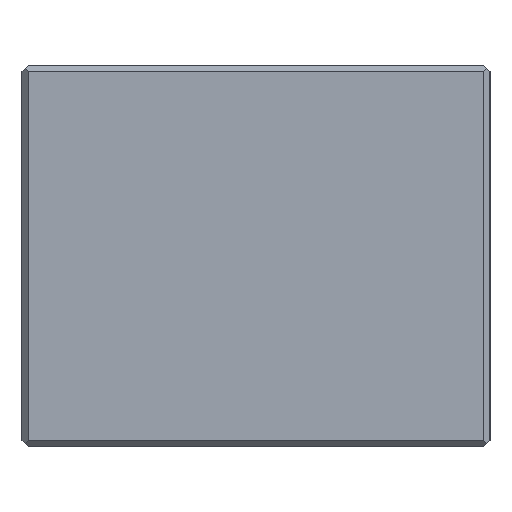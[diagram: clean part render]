
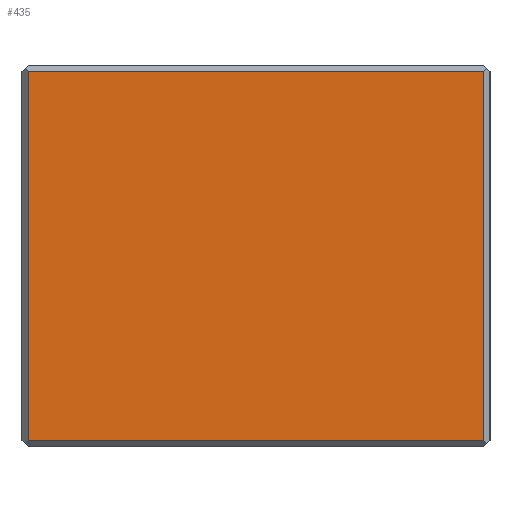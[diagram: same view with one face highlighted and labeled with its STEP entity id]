
A CAD part, left-side view. The second image highlights one B-rep face of the part: STEP entity #435.
In plain terms, the highlighted planar face has unit normal (-1, 0, 0).
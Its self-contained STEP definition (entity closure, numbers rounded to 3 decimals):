
#108=ORIENTED_EDGE('',*,*,#152,.T.);
#109=ORIENTED_EDGE('',*,*,#183,.F.);
#110=ORIENTED_EDGE('',*,*,#195,.F.);
#111=ORIENTED_EDGE('',*,*,#164,.T.);
#152=EDGE_CURVE('',#204,#207,#248,.T.);
#164=EDGE_CURVE('',#217,#204,#260,.T.);
#183=EDGE_CURVE('',#231,#207,#275,.T.);
#195=EDGE_CURVE('',#217,#231,#283,.T.);
#204=VERTEX_POINT('',#609);
#207=VERTEX_POINT('',#615);
#217=VERTEX_POINT('',#641);
#231=VERTEX_POINT('',#676);
#248=LINE('',#616,#296);
#260=LINE('',#640,#308);
#275=LINE('',#677,#323);
#283=LINE('',#700,#331);
#296=VECTOR('',#501,1000.);
#308=VECTOR('',#519,1000.);
#323=VECTOR('',#548,1000.);
#331=VECTOR('',#570,1000.);
#357=EDGE_LOOP('',(#108,#109,#110,#111));
#391=FACE_BOUND('',#357,.T.);
#417=PLANE('',#478);
#435=ADVANCED_FACE('',(#391),#417,.F.);
#478=AXIS2_PLACEMENT_3D('',#707,#579,#580);
#501=DIRECTION('',(0.,-1.,0.));
#519=DIRECTION('',(0.,0.,-1.));
#548=DIRECTION('',(0.,0.,-1.));
#570=DIRECTION('',(0.,-1.,0.));
#579=DIRECTION('',(1.,0.,0.));
#580=DIRECTION('',(0.,0.,-1.));
#609=CARTESIAN_POINT('',(-198.,75.,-30.));
#615=CARTESIAN_POINT('',(-198.,1.,-30.));
#616=CARTESIAN_POINT('',(-198.,76.,-30.));
#640=CARTESIAN_POINT('',(-198.,75.,31.));
#641=CARTESIAN_POINT('',(-198.,75.,30.));
#676=CARTESIAN_POINT('',(-198.,1.,30.));
#677=CARTESIAN_POINT('',(-198.,1.,31.));
#700=CARTESIAN_POINT('',(-198.,76.,30.));
#707=CARTESIAN_POINT('',(-198.,75.,31.));
